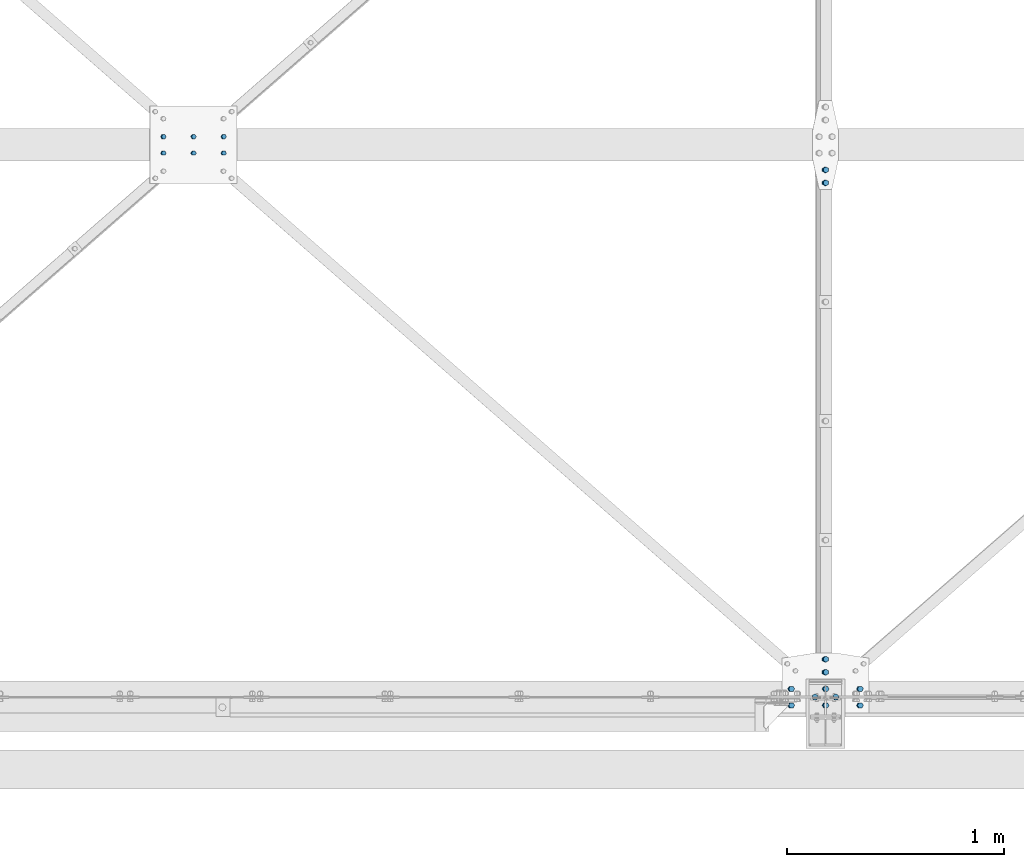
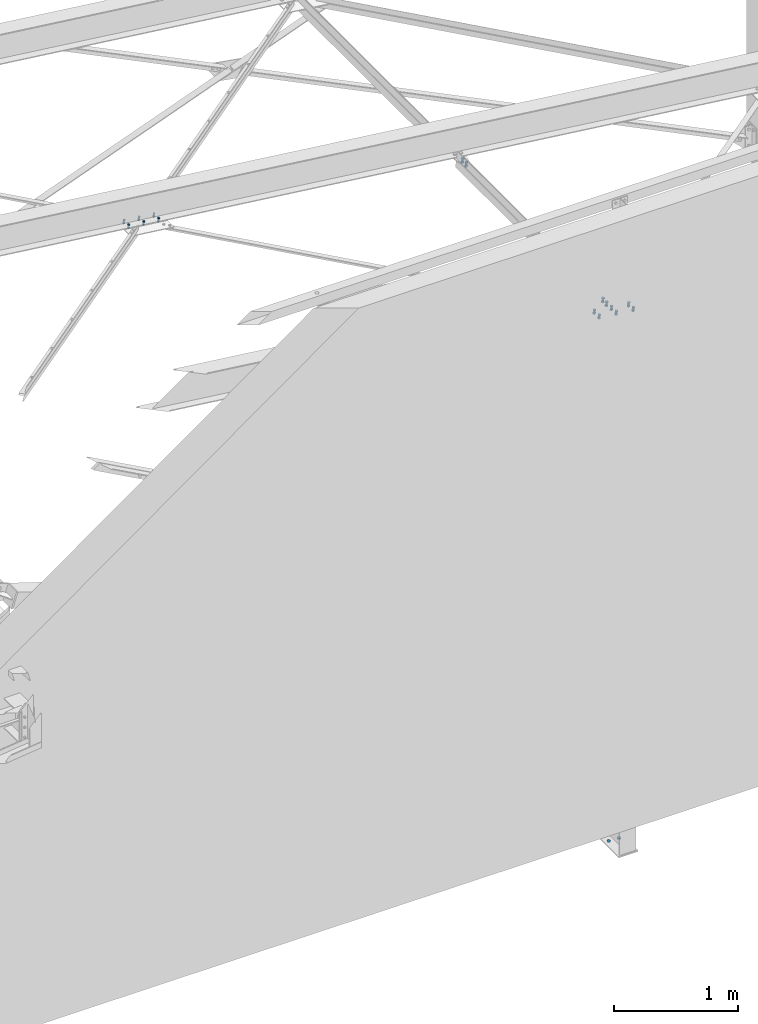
# One storey, part 121 of 3134: 5 mechanical fasteners, 4 elements without a shape of their own.
"""IFC2X3 building model written with IfcOpenShell, lengths in millimetres."""

import ifcopenshell
import ifcopenshell.guid

model = None  # the IFC model being written
_history = None  # IfcOwnerHistory: only IFC2X3 demands one
_inside = {}  # id of a spatial element -> (the spatial element, [elements in it])
_under = {}  # id of a project, library or spatial element -> (it, [spatial elements below it])
_declared = {}  # id of a project -> (the project, [libraries it declares])
_typed = {}  # id of a type object -> (the type object, [elements of that type])
_made_of = {}  # id of a material, layer set ... -> (it, [elements and type objects made of it])


def new_model(schema):
    """Start an empty IFC model of exactly this schema.

    Asked for "IFC4X3", IfcOpenShell would pick the latest addendum, in which some entities
    have other attributes; the version numbers below select the first issue.
    IFC2X3 requires an IfcOwnerHistory on every rooted entity: one is made here for all.
    """
    global model, _history
    if schema == "IFC4X3":
        model = ifcopenshell.file(schema_version=(4, 3, 0, 0))
    else:
        model = ifcopenshell.file(schema=schema)
    _inside.clear()
    _under.clear()
    _declared.clear()
    _typed.clear()
    _made_of.clear()
    _history = None
    if model.schema == "IFC2X3":
        org = make("IfcOrganization", Name="unknown")
        user = make(
            "IfcPersonAndOrganization",
            ThePerson=make("IfcPerson", FamilyName="unknown"),
            TheOrganization=org,
        )
        app = make(
            "IfcApplication",
            ApplicationDeveloper=org,
            Version="unknown",
            ApplicationFullName="unknown",
            ApplicationIdentifier="unknown",
        )
        _history = make(
            "IfcOwnerHistory",
            OwningUser=user,
            OwningApplication=app,
            ChangeAction="ADDED",
            CreationDate=0,
        )
    return model


def make(cls, **values):
    """One entity of the class cls with the attributes given. An attribute that is None is left unset."""
    return model.create_entity(
        cls, **{name: value for name, value in values.items() if value is not None}
    )


def rooted(cls, **values):
    """An entity with a GlobalId (a new one), such as an element, a storey or a relation."""
    return make(cls, GlobalId=ifcopenshell.guid.new(), OwnerHistory=_history, **values)


def si_unit(unit_type, name, prefix=None):
    """IfcSIUnit, for example si_unit("LENGTHUNIT", "METRE", prefix="MILLI")."""
    return make("IfcSIUnit", UnitType=unit_type, Prefix=prefix, Name=name)


def assignment(units):
    """IfcUnitAssignment: the units of a project."""
    return None if units is None else make("IfcUnitAssignment", Units=units)


def point(xyz):
    """IfcCartesianPoint."""
    return None if xyz is None else make("IfcCartesianPoint", Coordinates=xyz)


def direction(xyz):
    """IfcDirection."""
    return None if xyz is None else make("IfcDirection", DirectionRatios=xyz)


def frame(location, z_axis=None, x_axis=None):
    """IfcAxis2Placement3D, a coordinate frame: its origin and axes. An axis left out is left unset."""
    return make(
        "IfcAxis2Placement3D",
        Location=point(location),
        Axis=direction(z_axis),
        RefDirection=direction(x_axis),
    )


def origin_with_axes():
    """The frame at (0, 0, 0) with the z axis (0, 0, 1) and the x axis (1, 0, 0) written out."""
    return frame((0.0, 0.0, 0.0), z_axis=(0.0, 0.0, 1.0), x_axis=(1.0, 0.0, 0.0))


def place(relative_to, where):
    """IfcLocalPlacement: puts the frame where relative to a parent placement (None: the world)."""
    return make(
        "IfcLocalPlacement", PlacementRelTo=relative_to, RelativePlacement=where
    )


def context(
    kind, dimensions, precision=None, world=None, true_north=None, identifier=None
):
    """IfcGeometricRepresentationContext, for example the 3D "Model" context."""
    return make(
        "IfcGeometricRepresentationContext",
        ContextIdentifier=identifier,
        ContextType=kind,
        CoordinateSpaceDimension=dimensions,
        Precision=precision,
        WorldCoordinateSystem=world,
        TrueNorth=true_north,
    )


def subcontext(parent, identifier, kind, view, scale=None):
    """IfcGeometricRepresentationSubContext, for example "Body" below "Model"."""
    return make(
        "IfcGeometricRepresentationSubContext",
        ContextIdentifier=identifier,
        ContextType=kind,
        ParentContext=parent,
        TargetScale=scale,
        TargetView=view,
    )


def project(units=None, contexts=None):
    """IfcProject with its units and contexts."""
    return rooted(
        "IfcProject",
        Name="project",
        RepresentationContexts=contexts,
        UnitsInContext=assignment(units),
    )


def spatial(cls, under=None, at=None, **own):
    """A site, building, storey or space (cls), placed at a placement, below another one or the project."""
    s = rooted(cls, ObjectPlacement=at, **own)
    if under is not None:
        _under.setdefault(under.id(), (under, []))[1].append(s)
    return s


def faces_of(points, faces, orient=None, outer=None):
    """IfcFace entities. A face is a list of loops; a loop is a list of indices into points, from 0.

    orient and outer hold one flag for each loop. By default every Orientation is true, the
    first loop of a face is its IfcFaceOuterBound and the others are IfcFaceBound.
    """
    made = []
    for i, loops in enumerate(faces):
        bounds = []
        for j, loop in enumerate(loops):
            is_outer = j == 0 if outer is None else outer[i][j]
            bounds.append(
                make(
                    "IfcFaceOuterBound" if is_outer else "IfcFaceBound",
                    Bound=make("IfcPolyLoop", Polygon=[points[k] for k in loop]),
                    Orientation=True if orient is None else orient[i][j],
                )
            )
        made.append(make("IfcFace", Bounds=bounds))
    return made


def faceted_brep(points, faces, orient=None, outer=None, voids=None):
    """IfcFacetedBrep: a solid bounded by flat faces; with voids (closed shells), ...WithVoids."""
    shared = [point(p) for p in points]
    hull = make("IfcClosedShell", CfsFaces=faces_of(shared, faces, orient, outer))
    if voids is None:
        return make("IfcFacetedBrep", Outer=hull)
    return make(
        "IfcFacetedBrepWithVoids",
        Outer=hull,
        Voids=[
            make(cls, CfsFaces=faces_of(shared, fs, o, b)) for cls, fs, o, b in voids
        ],
    )


def shape(context_of_items, identifier, shape_type, items):
    """IfcShapeRepresentation: the items that make up one representation, for example the "Body"."""
    return make(
        "IfcShapeRepresentation",
        ContextOfItems=context_of_items,
        RepresentationIdentifier=identifier,
        RepresentationType=shape_type,
        Items=items,
    )


def source(mapping_origin, context_of_items, identifier, shape_type, items):
    """IfcRepresentationMap: a shape defined once, which mapped items show again and again."""
    return make(
        "IfcRepresentationMap",
        MappingOrigin=mapping_origin,
        MappedRepresentation=shape(context_of_items, identifier, shape_type, items),
    )


def transform(
    local_origin,
    x_axis=None,
    y_axis=None,
    z_axis=None,
    scale=None,
    scale2=None,
    scale3=None,
    uniform=True,
):
    """IfcCartesianTransformationOperator3D, or its non-uniform kind. x_axis, y_axis, z_axis: its Axis1, 2, 3."""
    if uniform:
        return make(
            "IfcCartesianTransformationOperator3D",
            Axis1=direction(x_axis),
            Axis2=direction(y_axis),
            LocalOrigin=point(local_origin),
            Scale=scale,
            Axis3=direction(z_axis),
        )
    return make(
        "IfcCartesianTransformationOperator3DnonUniform",
        Axis1=direction(x_axis),
        Axis2=direction(y_axis),
        LocalOrigin=point(local_origin),
        Scale=scale,
        Axis3=direction(z_axis),
        Scale2=scale2,
        Scale3=scale3,
    )


def mapped(mapping_source, mapping_target):
    """IfcMappedItem: shows the shape of a source again, moved by a transform."""
    return make(
        "IfcMappedItem", MappingSource=mapping_source, MappingTarget=mapping_target
    )


def material(Name=None, Category=None):
    """IfcMaterial."""
    return make("IfcMaterial", Name=Name, Category=Category)


def made_of(thing, what):
    """Note that an element or type object is made of a material, layer set ...; save() writes the relation."""
    if what is not None:
        _made_of.setdefault(what.id(), (what, []))[1].append(thing)
    return thing


def type_object(cls, material=None, **own):
    """A type object (cls), such as IfcWallType, which elements share."""
    return made_of(rooted(cls, **own), material)


def element(
    cls,
    number,
    at=None,
    inside=None,
    cuts=None,
    type_object=None,
    material=None,
    context=None,
    identifier="Body",
    shape_type=None,
    held_by="IfcProductDefinitionShape",
    body=None,
    shapes=None,
    **own,
):
    """One element of the class cls, such as IfcWall. Its Tag is "e" and its number.

    at: its placement. inside: the storey or other place that contains it. cuts: it is an
    opening in that element (IfcRelVoidsElement). A single representation is given by context,
    identifier, shape_type and body (its items); several are given by shapes. held_by: the class
    of the entity that holds the representations. save() writes the other relations.
    """
    e = rooted(cls, Tag="e%d" % number, ObjectPlacement=at, **own)
    if body is not None:
        shapes = [shape(context, identifier, shape_type, body)]
    if shapes is not None:
        e.Representation = make(held_by, Representations=shapes)
    if inside is not None:
        _inside.setdefault(inside.id(), (inside, []))[1].append(e)
    if cuts is not None:
        rooted(
            "IfcRelVoidsElement", RelatingBuildingElement=cuts, RelatedOpeningElement=e
        )
    if type_object is not None:
        _typed.setdefault(type_object.id(), (type_object, []))[1].append(e)
    return made_of(e, material)


def aggregate(whole, parts):
    """IfcRelAggregates: a whole, such as a stair, and the parts it consists of."""
    return rooted("IfcRelAggregates", RelatingObject=whole, RelatedObjects=parts)


def save(model, path):
    """Write the relations noted so far, then the file.

    IfcRelAggregates (storeys below a building ...), IfcRelContainedInSpatialStructure (elements
    in a storey), IfcRelDefinesByType, IfcRelAssociatesMaterial and IfcRelDeclares: one each for
    every whole, place, type object, material and project.
    """
    for whole, parts in _under.values():
        aggregate(whole, parts)
    for where, things in _inside.values():
        rooted(
            "IfcRelContainedInSpatialStructure",
            RelatedElements=things,
            RelatingStructure=where,
        )
    for kind, things in _typed.values():
        rooted("IfcRelDefinesByType", RelatedObjects=things, RelatingType=kind)
    for what, things in _made_of.values():
        rooted("IfcRelAssociatesMaterial", RelatedObjects=things, RelatingMaterial=what)
    for by, libraries in _declared.values():
        rooted("IfcRelDeclares", RelatingContext=by, RelatedDefinitions=libraries)
    model.write(path)


model = new_model("IFC2X3")

# Units and contexts
model_context = context("Model", 3, precision=1e-05, world=origin_with_axes())
body_context = subcontext(model_context, "Body", "Model", "MODEL_VIEW")
ifc_project = project(units=[si_unit("LENGTHUNIT", "METRE", prefix="MILLI"), si_unit("AREAUNIT", "SQUARE_METRE"), si_unit("VOLUMEUNIT", "CUBIC_METRE"), si_unit("MASSUNIT", "GRAM", prefix="KILO"), si_unit("TIMEUNIT", "SECOND"), si_unit("PLANEANGLEUNIT", "RADIAN"), si_unit("SOLIDANGLEUNIT", "STERADIAN"), si_unit("THERMODYNAMICTEMPERATUREUNIT", "DEGREE_CELSIUS"), si_unit("LUMINOUSINTENSITYUNIT", "LUMEN")], contexts=[model_context])

# Site, building, storey
site_placement = place(None, origin_with_axes())
site = spatial("IfcSite", under=ifc_project, at=site_placement, CompositionType="ELEMENT")
building_placement = place(site_placement, origin_with_axes())
building = spatial("IfcBuilding", under=site, at=building_placement, Name="Undefined", CompositionType="ELEMENT")
storey_placement = place(building_placement, origin_with_axes())
storey = spatial("IfcBuildingStorey", under=building, at=storey_placement, Name="Undefined", CompositionType="ELEMENT", Elevation=0.0)

# Assembly, mechanical fasteners
assembly_1_placement = place(storey_placement, origin_with_axes())
assembly_1 = element("IfcElementAssembly", 1, at=assembly_1_placement, inside=storey, AssemblyPlace="NOTDEFINED", PredefinedType="RIGID_FRAME")
ifc_material = material(Name="8.8")
mechanical_fastener_type = type_object("IfcMechanicalFastenerType", Name="Bolt assembly")
shared_shape_1 = source(origin_with_axes(), body_context, "Body", "Brep", [
    faceted_brep([(13.856406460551, -16.9990000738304, 0.0), (6.92820323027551, -16.9990000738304, 12.0), (-6.92820323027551, -16.9990000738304, 12.0), (-13.856406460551, -16.9990000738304, 1.69692038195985e-15), (-6.92820323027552, -16.9990000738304, -12.0), (6.9282032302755, -16.9990000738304, -12.0), (6.9282032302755, -6.99900007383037, -12.0), (-6.92820323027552, -6.99900007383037, -12.0), (-13.856406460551, -6.99900007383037, 1.69692038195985e-15), (-6.92820323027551, -6.99900007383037, 12.0), (6.92820323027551, -6.99900007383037, 12.0), (13.856406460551, -6.99900007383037, 0.0), (8.0, -6.99900007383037, 0.0), (6.92820323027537, -6.99900007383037, 4.00000000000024), (3.99999999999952, -6.99900007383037, 6.92820323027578), (-8.29068785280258e-13, -6.99900007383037, 8.0), (-4.00000000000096, -6.99900007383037, 6.92820323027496), (-6.9282032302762, -6.99900007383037, 3.99999999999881), (-8.0, -6.99900007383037, -1.65813757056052e-12), (-6.92820323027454, -6.99900007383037, -4.00000000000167), (-3.99999999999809, -6.99900007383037, -6.92820323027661), (2.47832457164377e-12, -6.99900007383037, -8.0), (4.00000000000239, -6.99900007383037, -6.92820323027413), (6.92820323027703, -6.99900007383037, -3.99999999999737), (6.92820323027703, 33.0009999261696, -3.99999999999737), (4.00000000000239, 33.0009999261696, -6.92820323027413), (2.47832457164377e-12, 33.0009999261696, -8.0), (-3.99999999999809, 33.0009999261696, -6.92820323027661), (-6.92820323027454, 33.0009999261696, -4.00000000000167), (-8.0, 33.0009999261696, -1.65813757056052e-12), (-6.9282032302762, 33.0009999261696, 3.99999999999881), (-4.00000000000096, 33.0009999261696, 6.92820323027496), (-8.29068785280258e-13, 33.0009999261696, 8.0), (3.99999999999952, 33.0009999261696, 6.92820323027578), (6.92820323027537, 33.0009999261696, 4.00000000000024), (8.0, 33.0009999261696, 0.0), (13.856406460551, 14.9990000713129, 0.0), (6.92820323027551, 14.9990000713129, 12.0), (-6.92820323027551, 14.9990000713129, 12.0), (-13.856406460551, 14.9990000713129, 1.69692038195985e-15), (-6.92820323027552, 14.9990000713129, -12.0), (6.9282032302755, 14.9990000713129, -12.0), (6.9282032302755, 27.9990000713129, -12.0), (-6.92820323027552, 27.9990000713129, -12.0), (-13.856406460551, 27.9990000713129, 1.69692038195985e-15), (-6.92820323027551, 27.9990000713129, 12.0), (6.92820323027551, 27.9990000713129, 12.0), (13.856406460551, 27.9990000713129, 0.0)], [[[0, 1, 2, 3, 4, 5]], [[6, 7, 8, 9, 10, 11]], [[0, 11, 10, 1]], [[1, 10, 9, 2]], [[2, 9, 8, 3]], [[3, 8, 7, 4]], [[4, 7, 6, 5]], [[5, 6, 11, 0]], [[12, 13, 14, 15, 16, 17, 18, 19, 20, 21, 22, 23]], [[24, 25, 26, 27, 28, 29, 30, 31, 32, 33, 34, 35]], [[12, 35, 34, 13]], [[13, 34, 33, 14]], [[14, 33, 32, 15]], [[15, 32, 31, 16]], [[16, 31, 30, 17]], [[17, 30, 29, 18]], [[18, 29, 28, 19]], [[19, 28, 27, 20]], [[20, 27, 26, 21]], [[21, 26, 25, 22]], [[22, 25, 24, 23]], [[23, 24, 35, 12]], [[36, 37, 38, 39, 40, 41]], [[42, 43, 44, 45, 46, 47]], [[36, 47, 46, 37]], [[37, 46, 45, 38]], [[38, 45, 44, 39]], [[39, 44, 43, 40]], [[40, 43, 42, 41]], [[41, 42, 47, 36]]]),
    faceted_brep([(9.0, -3.46568413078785e-07, 0.0), (7.79422863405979, -3.46568413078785e-07, 4.50000000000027), (4.49999999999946, -3.46568413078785e-07, 7.79422863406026), (-9.3270238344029e-13, -3.46568413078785e-07, 9.0), (-4.50000000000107, -3.46568413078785e-07, 7.79422863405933), (-7.79422863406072, -3.46568413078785e-07, 4.49999999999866), (-9.0, -3.46568413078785e-07, -1.86540476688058e-12), (-7.79422863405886, -3.46568413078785e-07, -4.50000000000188), (-4.49999999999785, -3.46568413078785e-07, -7.79422863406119), (2.78811514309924e-12, -3.46568413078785e-07, -9.0), (4.50000000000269, -3.46568413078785e-07, -7.7942286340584), (7.79422863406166, -3.46568413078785e-07, -4.49999999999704), (7.79422863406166, 8.00000000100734, -4.49999999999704), (4.50000000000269, 8.00000000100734, -7.7942286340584), (2.78811514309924e-12, 8.00000000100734, -9.0), (-4.49999999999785, 8.00000000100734, -7.79422863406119), (-7.79422863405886, 8.00000000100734, -4.50000000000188), (-9.0, 8.00000000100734, -1.86540476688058e-12), (-7.79422863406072, 8.00000000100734, 4.49999999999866), (-4.50000000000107, 8.00000000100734, 7.79422863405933), (-9.3270238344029e-13, 8.00000000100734, 9.0), (4.49999999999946, 8.00000000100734, 7.79422863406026), (7.79422863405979, 8.00000000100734, 4.50000000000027), (9.0, 8.00000000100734, 0.0), (9.0, -6.89900007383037, 0.0), (7.79422863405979, -6.89900007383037, 4.50000000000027), (4.49999999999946, -6.89900007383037, 7.79422863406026), (-9.3270238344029e-13, -6.89900007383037, 9.0), (-4.50000000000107, -6.89900007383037, 7.79422863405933), (-7.79422863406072, -6.89900007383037, 4.49999999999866), (-9.0, -6.89900007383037, -1.86540476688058e-12), (-7.79422863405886, -6.89900007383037, -4.50000000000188), (-4.49999999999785, -6.89900007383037, -7.79422863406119), (2.78811514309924e-12, -6.89900007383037, -9.0), (4.50000000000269, -6.89900007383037, -7.7942286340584), (7.79422863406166, -6.89900007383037, -4.49999999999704), (7.79422863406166, 0.100999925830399, -4.49999999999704), (4.50000000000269, 0.100999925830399, -7.7942286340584), (2.78811514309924e-12, 0.100999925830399, -9.0), (-4.49999999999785, 0.100999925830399, -7.79422863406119), (-7.79422863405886, 0.100999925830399, -4.50000000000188), (-9.0, 0.100999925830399, -1.86540476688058e-12), (-7.79422863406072, 0.100999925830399, 4.49999999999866), (-4.50000000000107, 0.100999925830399, 7.79422863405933), (-9.3270238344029e-13, 0.100999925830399, 9.0), (4.49999999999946, 0.100999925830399, 7.79422863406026), (7.79422863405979, 0.100999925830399, 4.50000000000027), (9.0, 0.100999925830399, 0.0), (9.0, 7.89900007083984, 0.0), (7.79422863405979, 7.89900007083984, 4.50000000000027), (4.49999999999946, 7.89900007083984, 7.79422863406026), (-9.3270238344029e-13, 7.89900007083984, 9.0), (-4.50000000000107, 7.89900007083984, 7.79422863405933), (-7.79422863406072, 7.89900007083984, 4.49999999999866), (-9.0, 7.89900007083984, -1.86540476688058e-12), (-7.79422863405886, 7.89900007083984, -4.50000000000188), (-4.49999999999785, 7.89900007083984, -7.79422863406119), (2.78811514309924e-12, 7.89900007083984, -9.0), (4.50000000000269, 7.89900007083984, -7.7942286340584), (7.79422863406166, 7.89900007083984, -4.49999999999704), (7.79422863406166, 14.9990000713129, -4.49999999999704), (4.50000000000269, 14.9990000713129, -7.7942286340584), (2.78811514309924e-12, 14.9990000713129, -9.0), (-4.49999999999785, 14.9990000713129, -7.79422863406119), (-7.79422863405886, 14.9990000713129, -4.50000000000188), (-9.0, 14.9990000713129, -1.86540476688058e-12), (-7.79422863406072, 14.9990000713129, 4.49999999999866), (-4.50000000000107, 14.9990000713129, 7.79422863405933), (-9.3270238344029e-13, 14.9990000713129, 9.0), (4.49999999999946, 14.9990000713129, 7.79422863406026), (7.79422863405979, 14.9990000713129, 4.50000000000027), (9.0, 14.9990000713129, 0.0)], [[[0, 1, 2, 3, 4, 5, 6, 7, 8, 9, 10, 11]], [[12, 13, 14, 15, 16, 17, 18, 19, 20, 21, 22, 23]], [[0, 23, 22, 1]], [[1, 22, 21, 2]], [[2, 21, 20, 3]], [[3, 20, 19, 4]], [[4, 19, 18, 5]], [[5, 18, 17, 6]], [[6, 17, 16, 7]], [[7, 16, 15, 8]], [[8, 15, 14, 9]], [[9, 14, 13, 10]], [[10, 13, 12, 11]], [[11, 12, 23, 0]], [[24, 25, 26, 27, 28, 29, 30, 31, 32, 33, 34, 35]], [[36, 37, 38, 39, 40, 41, 42, 43, 44, 45, 46, 47]], [[24, 47, 46, 25]], [[25, 46, 45, 26]], [[26, 45, 44, 27]], [[27, 44, 43, 28]], [[28, 43, 42, 29]], [[29, 42, 41, 30]], [[30, 41, 40, 31]], [[31, 40, 39, 32]], [[32, 39, 38, 33]], [[33, 38, 37, 34]], [[34, 37, 36, 35]], [[35, 36, 47, 24]], [[48, 49, 50, 51, 52, 53, 54, 55, 56, 57, 58, 59]], [[60, 61, 62, 63, 64, 65, 66, 67, 68, 69, 70, 71]], [[48, 71, 70, 49]], [[49, 70, 69, 50]], [[50, 69, 68, 51]], [[51, 68, 67, 52]], [[52, 67, 66, 53]], [[53, 66, 65, 54]], [[54, 65, 64, 55]], [[55, 64, 63, 56]], [[56, 63, 62, 57]], [[57, 62, 61, 58]], [[58, 61, 60, 59]], [[59, 60, 71, 48]]]),
])
mechanical_fastener_1_placement = place(assembly_1_placement, frame((50037.9849612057, 2435.00000000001, 4806.73358921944), z_axis=(0.992623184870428, 0.0, -0.121240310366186), x_axis=(0.0, -1.0, 0.0)))
mechanical_fastener_1 = element("IfcMechanicalFastener", 2, at=mechanical_fastener_1_placement, type_object=mechanical_fastener_type, material=ifc_material, Name="Bolt assembly", NominalDiameter=16.0, NominalLength=40.0, context=body_context, shape_type="MappedRepresentation", body=[
    mapped(shared_shape_1, transform((0.0, 0.0, 0.0))),
    mapped(shared_shape_1, transform((59.9999999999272, 0.0, 5.40239852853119e-10))),
])
mechanical_fastener_2_placement = place(assembly_1_placement, frame((50037.9827951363, 115.000000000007, 4806.73385378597), z_axis=(-0.992623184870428, 0.0, 0.121240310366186), x_axis=(0.0, 1.0, 0.0)))
mechanical_fastener_2 = element("IfcMechanicalFastener", 3, at=mechanical_fastener_2_placement, type_object=mechanical_fastener_type, material=ifc_material, Name="Bolt assembly", NominalDiameter=16.0, NominalLength=40.0, context=body_context, shape_type="MappedRepresentation", body=[
    mapped(shared_shape_1, transform((0.0, 0.0, 0.0))),
    mapped(shared_shape_1, transform((59.9999999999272, 0.0, 5.40239852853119e-10))),
])
aggregate(assembly_1, [mechanical_fastener_1, mechanical_fastener_2])

# Assembly, mechanical fastener
assembly_2_placement = place(storey_placement, origin_with_axes())
assembly_2 = element("IfcElementAssembly", 4, at=assembly_2_placement, inside=storey, Name="300", AssemblyPlace="NOTDEFINED", PredefinedType="RIGID_FRAME")
shared_shape_2 = source(origin_with_axes(), body_context, "Body", "Brep", [
    faceted_brep([(13.856406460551, -19.199990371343, 0.0), (6.92820323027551, -19.199990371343, 12.0), (-6.92820323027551, -19.199990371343, 12.0), (-13.856406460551, -19.199990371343, 1.69692038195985e-15), (-6.92820323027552, -19.199990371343, -12.0), (6.9282032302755, -19.199990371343, -12.0), (6.9282032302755, -9.19999037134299, -12.0), (-6.92820323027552, -9.19999037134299, -12.0), (-13.856406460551, -9.19999037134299, 1.69692038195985e-15), (-6.92820323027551, -9.19999037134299, 12.0), (6.92820323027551, -9.19999037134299, 12.0), (13.856406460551, -9.19999037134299, 0.0), (8.0, -9.19999037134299, 0.0), (6.92820323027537, -9.19999037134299, 4.00000000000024), (3.99999999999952, -9.19999037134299, 6.92820323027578), (-8.29068785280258e-13, -9.19999037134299, 8.0), (-4.00000000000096, -9.19999037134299, 6.92820323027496), (-6.9282032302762, -9.19999037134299, 3.99999999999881), (-8.0, -9.19999037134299, -1.65813757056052e-12), (-6.92820323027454, -9.19999037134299, -4.00000000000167), (-3.99999999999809, -9.19999037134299, -6.92820323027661), (2.47832457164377e-12, -9.19999037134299, -8.0), (4.00000000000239, -9.19999037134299, -6.92820323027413), (6.92820323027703, -9.19999037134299, -3.99999999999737), (6.92820323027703, 25.800009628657, -3.99999999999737), (4.00000000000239, 25.800009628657, -6.92820323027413), (2.47832457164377e-12, 25.800009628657, -8.0), (-3.99999999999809, 25.800009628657, -6.92820323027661), (-6.92820323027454, 25.800009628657, -4.00000000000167), (-8.0, 25.800009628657, -1.65813757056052e-12), (-6.9282032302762, 25.800009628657, 3.99999999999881), (-4.00000000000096, 25.800009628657, 6.92820323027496), (-8.29068785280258e-13, 25.800009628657, 8.0), (3.99999999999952, 25.800009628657, 6.92820323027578), (6.92820323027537, 25.800009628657, 4.00000000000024), (8.0, 25.800009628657, 0.0), (13.856406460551, 8.00000637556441, 0.0), (6.92820323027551, 8.00000637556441, 12.0), (-6.92820323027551, 8.00000637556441, 12.0), (-13.856406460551, 8.00000637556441, 1.69692038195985e-15), (-6.92820323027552, 8.00000637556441, -12.0), (6.9282032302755, 8.00000637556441, -12.0), (6.9282032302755, 21.0000063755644, -12.0), (-6.92820323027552, 21.0000063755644, -12.0), (-13.856406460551, 21.0000063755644, 1.69692038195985e-15), (-6.92820323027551, 21.0000063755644, 12.0), (6.92820323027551, 21.0000063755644, 12.0), (13.856406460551, 21.0000063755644, 0.0)], [[[0, 1, 2, 3, 4, 5]], [[6, 7, 8, 9, 10, 11]], [[0, 11, 10, 1]], [[1, 10, 9, 2]], [[2, 9, 8, 3]], [[3, 8, 7, 4]], [[4, 7, 6, 5]], [[5, 6, 11, 0]], [[12, 13, 14, 15, 16, 17, 18, 19, 20, 21, 22, 23]], [[24, 25, 26, 27, 28, 29, 30, 31, 32, 33, 34, 35]], [[12, 35, 34, 13]], [[13, 34, 33, 14]], [[14, 33, 32, 15]], [[15, 32, 31, 16]], [[16, 31, 30, 17]], [[17, 30, 29, 18]], [[18, 29, 28, 19]], [[19, 28, 27, 20]], [[20, 27, 26, 21]], [[21, 26, 25, 22]], [[22, 25, 24, 23]], [[23, 24, 35, 12]], [[36, 37, 38, 39, 40, 41]], [[42, 43, 44, 45, 46, 47]], [[36, 47, 46, 37]], [[37, 46, 45, 38]], [[38, 45, 44, 39]], [[39, 44, 43, 40]], [[40, 43, 42, 41]], [[41, 42, 47, 36]]]),
    faceted_brep([(9.0, -0.1, 0.0), (7.79422863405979, -0.1, 4.50000000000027), (4.49999999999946, -0.1, 7.79422863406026), (-9.3270238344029e-13, -0.1, 9.0), (-4.50000000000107, -0.1, 7.79422863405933), (-7.79422863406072, -0.1, 4.49999999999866), (-9.0, -0.1, -1.86540476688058e-12), (-7.79422863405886, -0.1, -4.50000000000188), (-4.49999999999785, -0.1, -7.79422863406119), (2.78811514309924e-12, -0.1, -9.0), (4.50000000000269, -0.1, -7.7942286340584), (7.79422863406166, -0.1, -4.49999999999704), (7.79422863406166, 8.00000000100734, -4.49999999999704), (4.50000000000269, 8.00000000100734, -7.7942286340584), (2.78811514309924e-12, 8.00000000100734, -9.0), (-4.49999999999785, 8.00000000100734, -7.79422863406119), (-7.79422863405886, 8.00000000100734, -4.50000000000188), (-9.0, 8.00000000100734, -1.86540476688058e-12), (-7.79422863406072, 8.00000000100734, 4.49999999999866), (-4.50000000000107, 8.00000000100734, 7.79422863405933), (-9.3270238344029e-13, 8.00000000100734, 9.0), (4.49999999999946, 8.00000000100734, 7.79422863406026), (7.79422863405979, 8.00000000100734, 4.50000000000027), (9.0, 8.00000000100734, 0.0), (9.0, -9.09999037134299, 0.0), (7.79422863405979, -9.09999037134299, 4.50000000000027), (4.49999999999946, -9.09999037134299, 7.79422863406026), (-9.3270238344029e-13, -9.09999037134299, 9.0), (-4.50000000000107, -9.09999037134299, 7.79422863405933), (-7.79422863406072, -9.09999037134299, 4.49999999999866), (-9.0, -9.09999037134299, -1.86540476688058e-12), (-7.79422863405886, -9.09999037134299, -4.50000000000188), (-4.49999999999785, -9.09999037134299, -7.79422863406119), (2.78811514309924e-12, -9.09999037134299, -9.0), (4.50000000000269, -9.09999037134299, -7.7942286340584), (7.79422863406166, -9.09999037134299, -4.49999999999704), (7.79422863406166, 0.100000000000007, -4.49999999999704), (4.50000000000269, 0.100000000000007, -7.7942286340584), (2.78811514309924e-12, 0.100000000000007, -9.0), (-4.49999999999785, 0.100000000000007, -7.79422863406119), (-7.79422863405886, 0.100000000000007, -4.50000000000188), (-9.0, 0.100000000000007, -1.86540476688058e-12), (-7.79422863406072, 0.100000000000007, 4.49999999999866), (-4.50000000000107, 0.100000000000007, 7.79422863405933), (-9.3270238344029e-13, 0.100000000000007, 9.0), (4.49999999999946, 0.100000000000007, 7.79422863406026), (7.79422863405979, 0.100000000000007, 4.50000000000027), (9.0, 0.100000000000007, 0.0)], [[[0, 1, 2, 3, 4, 5, 6, 7, 8, 9, 10, 11]], [[12, 13, 14, 15, 16, 17, 18, 19, 20, 21, 22, 23]], [[0, 23, 22, 1]], [[1, 22, 21, 2]], [[2, 21, 20, 3]], [[3, 20, 19, 4]], [[4, 19, 18, 5]], [[5, 18, 17, 6]], [[6, 17, 16, 7]], [[7, 16, 15, 8]], [[8, 15, 14, 9]], [[9, 14, 13, 10]], [[10, 13, 12, 11]], [[11, 12, 23, 0]], [[24, 25, 26, 27, 28, 29, 30, 31, 32, 33, 34, 35]], [[36, 37, 38, 39, 40, 41, 42, 43, 44, 45, 46, 47]], [[24, 47, 46, 25]], [[25, 46, 45, 26]], [[26, 45, 44, 27]], [[27, 44, 43, 28]], [[28, 43, 42, 29]], [[29, 42, 41, 30]], [[30, 41, 40, 31]], [[31, 40, 39, 32]], [[32, 39, 38, 33]], [[33, 38, 37, 34]], [[34, 37, 36, 35]], [[35, 36, 47, 24]]]),
])
mechanical_fastener_3_placement = place(assembly_2_placement, frame((50196.8025059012, 0.0, 4787.33541359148), z_axis=(0.0, -1.0, 0.0), x_axis=(-0.992623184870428, 0.0, 0.121240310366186)))
mechanical_fastener_3 = element("IfcMechanicalFastener", 5, at=mechanical_fastener_3_placement, type_object=mechanical_fastener_type, material=ifc_material, Name="Bolt assembly", NominalDiameter=16.0, NominalLength=35.0, context=body_context, shape_type="MappedRepresentation", body=[
    mapped(shared_shape_2, transform((0.0, 0.0, -38.0))),
    mapped(shared_shape_2, transform((159.99999999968, -2.71938915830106e-10, -38.0))),
    mapped(shared_shape_2, transform((320.000000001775, 1.33877620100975e-09, -38.0))),
    mapped(shared_shape_2, transform((0.0, 0.0, 38.0))),
    mapped(shared_shape_2, transform((159.99999999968, -2.71938915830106e-10, 38.0))),
    mapped(shared_shape_2, transform((320.000000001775, 1.33877620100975e-09, 38.0))),
])
aggregate(assembly_2, [mechanical_fastener_3])

assembly_3_placement = place(storey_placement, origin_with_axes())
assembly_3 = element("IfcElementAssembly", 6, at=assembly_3_placement, inside=storey, Name="300", AssemblyPlace="NOTDEFINED", PredefinedType="RIGID_FRAME")
shared_shape_3 = source(origin_with_axes(), body_context, "Body", "Brep", [
    faceted_brep([(10.9696551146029, -17.1999998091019, 0.0), (5.48482755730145, -17.1999998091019, 9.5), (-5.48482755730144, -17.1999998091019, 9.5), (-10.9696551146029, -17.1999998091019, 1.34339530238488e-15), (-5.48482755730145, -17.1999998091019, -9.5), (5.48482755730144, -17.1999998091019, -9.50000000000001), (5.48482755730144, -9.19999978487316, -9.50000000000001), (-5.48482755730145, -9.19999978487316, -9.5), (-10.9696551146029, -9.19999978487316, 1.34339530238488e-15), (-5.48482755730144, -9.19999978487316, 9.5), (5.48482755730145, -9.19999978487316, 9.5), (10.9696551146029, -9.19999978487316, 0.0), (6.0, -9.19999978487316, 0.0), (5.19615242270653, -9.19999978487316, 3.00000000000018), (2.99999999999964, -9.19999978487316, 5.19615242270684), (-6.21801588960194e-13, -9.19999978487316, 6.0), (-3.00000000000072, -9.19999978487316, 5.19615242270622), (-5.19615242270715, -9.19999978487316, 2.9999999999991), (-6.0, -9.19999978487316, -1.24360317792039e-12), (-5.19615242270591, -9.19999978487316, -3.00000000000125), (-2.99999999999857, -9.19999978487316, -5.19615242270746), (1.85874342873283e-12, -9.19999978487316, -6.0), (3.00000000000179, -9.19999978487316, -5.1961524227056), (5.19615242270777, -9.19999978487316, -2.99999999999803), (5.19615242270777, 25.8000002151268, -2.99999999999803), (3.00000000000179, 25.8000002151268, -5.1961524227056), (1.85874342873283e-12, 25.8000002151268, -6.0), (-2.99999999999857, 25.8000002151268, -5.19615242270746), (-5.19615242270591, 25.8000002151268, -3.00000000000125), (-6.0, 25.8000002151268, -1.24360317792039e-12), (-5.19615242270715, 25.8000002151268, 2.9999999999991), (-3.00000000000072, 25.8000002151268, 5.19615242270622), (-6.21801588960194e-13, 25.8000002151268, 6.0), (2.99999999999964, 25.8000002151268, 5.19615242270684), (5.19615242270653, 25.8000002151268, 3.00000000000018), (6.0, 25.8000002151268, 0.0), (10.9696551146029, 8.0, 0.0), (5.48482755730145, 8.0, 9.5), (-5.48482755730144, 8.0, 9.5), (-10.9696551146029, 8.0, 1.34339530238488e-15), (-5.48482755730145, 8.0, -9.5), (5.48482755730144, 8.0, -9.50000000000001), (5.48482755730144, 18.0, -9.50000000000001), (-5.48482755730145, 18.0, -9.5), (-10.9696551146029, 18.0, 1.34339530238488e-15), (-5.48482755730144, 18.0, 9.5), (5.48482755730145, 18.0, 9.5), (10.9696551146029, 18.0, 0.0)], [[[0, 1, 2, 3, 4, 5]], [[6, 7, 8, 9, 10, 11]], [[0, 11, 10, 1]], [[1, 10, 9, 2]], [[2, 9, 8, 3]], [[3, 8, 7, 4]], [[4, 7, 6, 5]], [[5, 6, 11, 0]], [[12, 13, 14, 15, 16, 17, 18, 19, 20, 21, 22, 23]], [[24, 25, 26, 27, 28, 29, 30, 31, 32, 33, 34, 35]], [[12, 35, 34, 13]], [[13, 34, 33, 14]], [[14, 33, 32, 15]], [[15, 32, 31, 16]], [[16, 31, 30, 17]], [[17, 30, 29, 18]], [[18, 29, 28, 19]], [[19, 28, 27, 20]], [[20, 27, 26, 21]], [[21, 26, 25, 22]], [[22, 25, 24, 23]], [[23, 24, 35, 12]], [[36, 37, 38, 39, 40, 41]], [[42, 43, 44, 45, 46, 47]], [[36, 47, 46, 37]], [[37, 46, 45, 38]], [[38, 45, 44, 39]], [[39, 44, 43, 40]], [[40, 43, 42, 41]], [[41, 42, 47, 36]]]),
    faceted_brep([(7.0, -0.1, 0.0), (6.06217782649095, -0.1, 3.50000000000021), (3.49999999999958, -0.1, 6.06217782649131), (-7.25435187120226e-13, -0.1, 7.0), (-3.50000000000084, -0.1, 6.06217782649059), (-6.06217782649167, -0.1, 3.49999999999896), (-7.0, -0.1, -1.45087037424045e-12), (-6.06217782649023, -0.1, -3.50000000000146), (-3.49999999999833, -0.1, -6.06217782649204), (2.1685340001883e-12, -0.1, -7.0), (3.50000000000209, -0.1, -6.06217782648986), (6.0621778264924, -0.1, -3.4999999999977), (6.0621778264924, 8.0000000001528, -3.4999999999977), (3.50000000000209, 8.0000000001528, -6.06217782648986), (2.1685340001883e-12, 8.0000000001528, -7.0), (-3.49999999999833, 8.0000000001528, -6.06217782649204), (-6.06217782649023, 8.0000000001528, -3.50000000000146), (-7.0, 8.0000000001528, -1.45087037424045e-12), (-6.06217782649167, 8.0000000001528, 3.49999999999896), (-3.50000000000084, 8.0000000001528, 6.06217782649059), (-7.25435187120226e-13, 8.0000000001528, 7.0), (3.49999999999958, 8.0000000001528, 6.06217782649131), (6.06217782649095, 8.0000000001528, 3.50000000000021), (7.0, 8.0000000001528, 0.0), (7.0, -9.09999980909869, 0.0), (6.06217782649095, -9.09999980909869, 3.50000000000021), (3.49999999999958, -9.09999980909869, 6.06217782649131), (-7.25435187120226e-13, -9.09999980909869, 7.0), (-3.50000000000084, -9.09999980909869, 6.06217782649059), (-6.06217782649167, -9.09999980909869, 3.49999999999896), (-7.0, -9.09999980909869, -1.45087037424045e-12), (-6.06217782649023, -9.09999980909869, -3.50000000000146), (-3.49999999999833, -9.09999980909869, -6.06217782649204), (2.1685340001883e-12, -9.09999980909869, -7.0), (3.50000000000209, -9.09999980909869, -6.06217782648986), (6.0621778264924, -9.09999980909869, -3.4999999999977), (6.0621778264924, 0.0999999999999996, -3.4999999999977), (3.50000000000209, 0.0999999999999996, -6.06217782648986), (2.1685340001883e-12, 0.0999999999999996, -7.0), (-3.49999999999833, 0.0999999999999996, -6.06217782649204), (-6.06217782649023, 0.0999999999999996, -3.50000000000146), (-7.0, 0.0999999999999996, -1.45087037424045e-12), (-6.06217782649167, 0.0999999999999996, 3.49999999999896), (-3.50000000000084, 0.0999999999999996, 6.06217782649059), (-7.25435187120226e-13, 0.0999999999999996, 7.0), (3.49999999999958, 0.0999999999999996, 6.06217782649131), (6.06217782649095, 0.0999999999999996, 3.50000000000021), (7.0, 0.0999999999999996, 0.0)], [[[0, 1, 2, 3, 4, 5, 6, 7, 8, 9, 10, 11]], [[12, 13, 14, 15, 16, 17, 18, 19, 20, 21, 22, 23]], [[0, 23, 22, 1]], [[1, 22, 21, 2]], [[2, 21, 20, 3]], [[3, 20, 19, 4]], [[4, 19, 18, 5]], [[5, 18, 17, 6]], [[6, 17, 16, 7]], [[7, 16, 15, 8]], [[8, 15, 14, 9]], [[9, 14, 13, 10]], [[10, 13, 12, 11]], [[11, 12, 23, 0]], [[24, 25, 26, 27, 28, 29, 30, 31, 32, 33, 34, 35]], [[36, 37, 38, 39, 40, 41, 42, 43, 44, 45, 46, 47]], [[24, 47, 46, 25]], [[25, 46, 45, 26]], [[26, 45, 44, 27]], [[27, 44, 43, 28]], [[28, 43, 42, 29]], [[29, 42, 41, 30]], [[30, 41, 40, 31]], [[31, 40, 39, 32]], [[32, 39, 38, 33]], [[33, 38, 37, 34]], [[34, 37, 36, 35]], [[35, 36, 47, 24]]]),
])
mechanical_fastener_4_placement = place(assembly_3_placement, frame((47258.202206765, 2550.0, 5146.25993621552), z_axis=(0.0, -1.0, 0.0), x_axis=(-0.992623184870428, 0.0, 0.121240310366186)))
mechanical_fastener_4 = element("IfcMechanicalFastener", 7, at=mechanical_fastener_4_placement, type_object=mechanical_fastener_type, material=ifc_material, Name="Bolt assembly", NominalDiameter=12.0, NominalLength=35.0, context=body_context, shape_type="MappedRepresentation", body=[
    mapped(shared_shape_3, transform((0.0, 0.0, -38.0))),
    mapped(shared_shape_3, transform((140.000000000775, 5.85714587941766e-10, -38.0))),
    mapped(shared_shape_3, transform((279.999999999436, -4.74756234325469e-10, -38.0))),
    mapped(shared_shape_3, transform((0.0, 0.0, 38.0))),
    mapped(shared_shape_3, transform((140.000000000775, 5.85714587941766e-10, 38.0))),
    mapped(shared_shape_3, transform((279.999999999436, -4.74756234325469e-10, 38.0))),
])
aggregate(assembly_3, [mechanical_fastener_4])

assembly_4_placement = place(storey_placement, origin_with_axes())
assembly_4 = element("IfcElementAssembly", 8, at=assembly_4_placement, inside=storey, Name="300", AssemblyPlace="NOTDEFINED", PredefinedType="RIGID_FRAME")
shared_shape_4 = source(origin_with_axes(), body_context, "Body", "Brep", [
    faceted_brep([(13.0, -25.000000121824, 0.0), (11.2583302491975, -25.000000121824, 6.50000000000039), (6.49999999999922, -25.000000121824, 11.2583302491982), (-1.34723677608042e-12, -25.000000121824, 13.0), (-6.50000000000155, -25.000000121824, 11.2583302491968), (-11.2583302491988, -25.000000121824, 6.49999999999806), (-13.0, -25.000000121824, -2.69447355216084e-12), (-11.2583302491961, -25.000000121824, -6.50000000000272), (-6.4999999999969, -25.000000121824, -11.2583302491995), (4.02727742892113e-12, -25.000000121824, -13.0), (6.50000000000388, -25.000000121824, -11.2583302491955), (11.2583302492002, -25.000000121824, -6.49999999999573), (11.2583302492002, -12.900000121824, -6.49999999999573), (6.50000000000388, -12.900000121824, -11.2583302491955), (4.02727742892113e-12, -12.900000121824, -13.0), (-6.4999999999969, -12.900000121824, -11.2583302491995), (-11.2583302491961, -12.900000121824, -6.50000000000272), (-13.0, -12.900000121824, -2.69447355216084e-12), (-11.2583302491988, -12.900000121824, 6.49999999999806), (-6.50000000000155, -12.900000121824, 11.2583302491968), (-1.34723677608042e-12, -12.900000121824, 13.0), (6.49999999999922, -12.900000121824, 11.2583302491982), (11.2583302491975, -12.900000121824, 6.50000000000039), (13.0, -12.900000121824, 0.0)], [[[0, 1, 2, 3, 4, 5, 6, 7, 8, 9, 10, 11]], [[12, 13, 14, 15, 16, 17, 18, 19, 20, 21, 22, 23]], [[0, 23, 22, 1]], [[1, 22, 21, 2]], [[2, 21, 20, 3]], [[3, 20, 19, 4]], [[4, 19, 18, 5]], [[5, 18, 17, 6]], [[6, 17, 16, 7]], [[7, 16, 15, 8]], [[8, 15, 14, 9]], [[9, 14, 13, 10]], [[10, 13, 12, 11]], [[11, 12, 23, 0]]]),
])
mechanical_fastener_5_placement = place(assembly_4_placement, frame((50037.5000000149, -301.499999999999, -374.999999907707), z_axis=(1.0, 0.0, 0.0), x_axis=(0.0, 1.0, 0.0)))
mechanical_fastener_5 = element("IfcMechanicalFastener", 9, at=mechanical_fastener_5_placement, type_object=mechanical_fastener_type, material=ifc_material, Name="Bolt assembly", NominalDiameter=24.0, NominalLength=12.0, context=body_context, shape_type="MappedRepresentation", body=[
    mapped(shared_shape_4, transform((301.5, 0.0, -48.0))),
    mapped(shared_shape_4, transform((301.5, 0.0, 48.0))),
])
aggregate(assembly_4, [mechanical_fastener_5])

save(model, "model.ifc")
